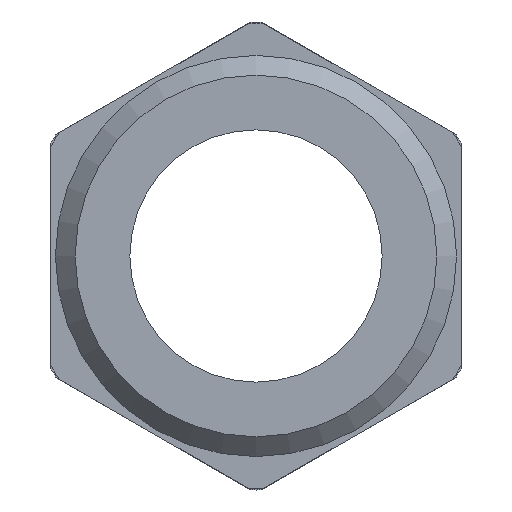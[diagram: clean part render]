
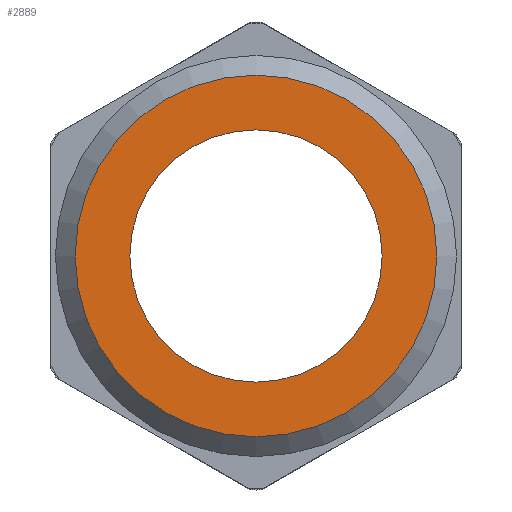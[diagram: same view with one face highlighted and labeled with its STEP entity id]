
A CAD part, left-side view. The second image highlights one B-rep face of the part: STEP entity #2889.
In plain terms, the highlighted planar face has unit normal (-1, 0, 0).
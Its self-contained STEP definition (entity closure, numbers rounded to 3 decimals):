
#2853=CARTESIAN_POINT('',(-55.,0.,0.));
#2854=DIRECTION('',(1.,0.,0.));
#2855=DIRECTION('',(0.,0.,-1.));
#2856=AXIS2_PLACEMENT_3D('',#2853,#2854,#2855);
#2857=PLANE('',#2856);
#2858=CARTESIAN_POINT('',(-55.,-0.,-8.3));
#2859=VERTEX_POINT('',#2858);
#2860=CARTESIAN_POINT('',(-55.,0.,0.));
#2861=DIRECTION('',(1.,0.,0.));
#2862=DIRECTION('',(0.,0.,-1.));
#2863=AXIS2_PLACEMENT_3D('',#2860,#2861,#2862);
#2864=CIRCLE('',#2863,8.3);
#2865=EDGE_CURVE('',#2859,#2859,#2864,.T.);
#2866=ORIENTED_EDGE('',*,*,#2865,.T.);
#2867=EDGE_LOOP('',(#2866));
#2868=FACE_BOUND('',#2867,.T.);
#2869=CARTESIAN_POINT('',(-55.,-0.,11.9));
#2870=VERTEX_POINT('',#2869);
#2871=CARTESIAN_POINT('',(-55.,0.,-11.9));
#2872=VERTEX_POINT('',#2871);
#2873=CARTESIAN_POINT('',(-55.,0.,0.));
#2874=DIRECTION('',(-1.,0.,0.));
#2875=DIRECTION('',(0.,0.,1.));
#2876=AXIS2_PLACEMENT_3D('',#2873,#2874,#2875);
#2877=CIRCLE('',#2876,11.9);
#2878=EDGE_CURVE('',#2870,#2872,#2877,.T.);
#2879=ORIENTED_EDGE('',*,*,#2878,.T.);
#2880=CARTESIAN_POINT('',(-55.,0.,0.));
#2881=DIRECTION('',(-1.,0.,0.));
#2882=DIRECTION('',(0.,0.,1.));
#2883=AXIS2_PLACEMENT_3D('',#2880,#2881,#2882);
#2884=CIRCLE('',#2883,11.9);
#2885=EDGE_CURVE('',#2872,#2870,#2884,.T.);
#2886=ORIENTED_EDGE('',*,*,#2885,.T.);
#2887=EDGE_LOOP('',(#2879,#2886));
#2888=FACE_BOUND('',#2887,.T.);
#2889=ADVANCED_FACE('',(#2868,#2888),#2857,.F.);
